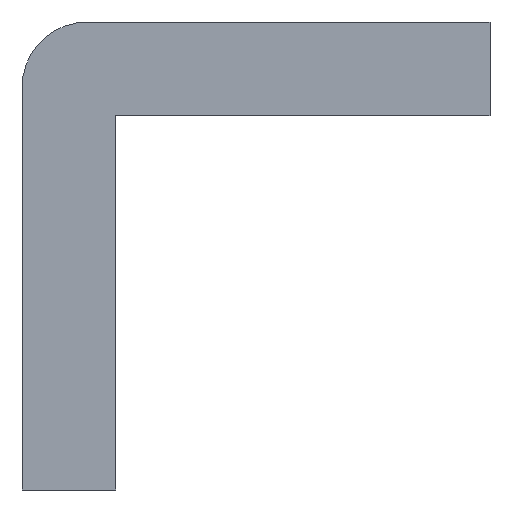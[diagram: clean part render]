
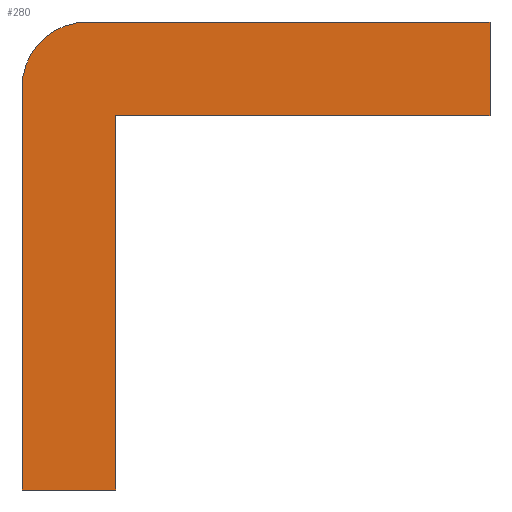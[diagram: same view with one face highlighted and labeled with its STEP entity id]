
A CAD part, front view. The second image highlights one B-rep face of the part: STEP entity #280.
In plain terms, the highlighted planar face has unit normal (0, -1, 0).
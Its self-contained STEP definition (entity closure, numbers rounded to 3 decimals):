
#1=DIRECTION('',(0.,0.,1.));
#2=VECTOR('',#1,4.3);
#3=CARTESIAN_POINT('',(0.,0.,-5.));
#4=LINE('',#3,#2);
#5=CARTESIAN_POINT('',(0.7,0.,-0.7));
#6=DIRECTION('',(0.,1.,0.));
#7=DIRECTION('',(-1.,0.,0.));
#8=AXIS2_PLACEMENT_3D('',#5,#6,#7);
#10=DIRECTION('',(0.,0.,-1.));
#11=VECTOR('',#10,1.);
#12=CARTESIAN_POINT('',(5.,0.,0.));
#13=LINE('',#12,#11);
#14=DIRECTION('',(-1.,0.,0.));
#15=VECTOR('',#14,4.);
#16=CARTESIAN_POINT('',(5.,0.,-1.));
#17=LINE('',#16,#15);
#18=DIRECTION('',(0.,0.,-1.));
#19=VECTOR('',#18,4.);
#20=CARTESIAN_POINT('',(1.,0.,-1.));
#21=LINE('',#20,#19);
#22=DIRECTION('',(-1.,0.,0.));
#23=VECTOR('',#22,1.);
#24=CARTESIAN_POINT('',(1.,0.,-5.));
#25=LINE('',#24,#23);
#120=DIRECTION('',(-1.,0.,0.));
#121=VECTOR('',#120,4.3);
#122=CARTESIAN_POINT('',(5.,0.,0.));
#123=LINE('',#122,#121);
#199=CARTESIAN_POINT('',(0.,0.,-5.));
#200=CARTESIAN_POINT('',(0.,0.,-0.7));
#201=VERTEX_POINT('',#199);
#202=VERTEX_POINT('',#200);
#203=CARTESIAN_POINT('',(0.7,0.,0.));
#204=VERTEX_POINT('',#203);
#205=CARTESIAN_POINT('',(5.,0.,0.));
#206=CARTESIAN_POINT('',(5.,0.,-1.));
#207=VERTEX_POINT('',#205);
#208=VERTEX_POINT('',#206);
#209=CARTESIAN_POINT('',(1.,0.,-1.));
#210=VERTEX_POINT('',#209);
#211=CARTESIAN_POINT('',(1.,0.,-5.));
#212=VERTEX_POINT('',#211);
#259=CARTESIAN_POINT('',(0.,0.,0.));
#260=DIRECTION('',(0.,1.,0.));
#261=DIRECTION('',(1.,0.,0.));
#262=AXIS2_PLACEMENT_3D('',#259,#260,#261);
#263=PLANE('',#262);
#265=ORIENTED_EDGE('',*,*,#264,.T.);
#267=ORIENTED_EDGE('',*,*,#266,.T.);
#269=ORIENTED_EDGE('',*,*,#268,.F.);
#271=ORIENTED_EDGE('',*,*,#270,.T.);
#273=ORIENTED_EDGE('',*,*,#272,.T.);
#275=ORIENTED_EDGE('',*,*,#274,.T.);
#277=ORIENTED_EDGE('',*,*,#276,.T.);
#278=EDGE_LOOP('',(#265,#267,#269,#271,#273,#275,#277));
#279=FACE_OUTER_BOUND('',#278,.F.);
#280=ADVANCED_FACE('',(#279),#263,.F.);
#9=CIRCLE('',#8,0.7);
#264=EDGE_CURVE('',#201,#202,#4,.T.);
#266=EDGE_CURVE('',#202,#204,#9,.T.);
#268=EDGE_CURVE('',#207,#204,#123,.T.);
#270=EDGE_CURVE('',#207,#208,#13,.T.);
#272=EDGE_CURVE('',#208,#210,#17,.T.);
#274=EDGE_CURVE('',#210,#212,#21,.T.);
#276=EDGE_CURVE('',#212,#201,#25,.T.);
